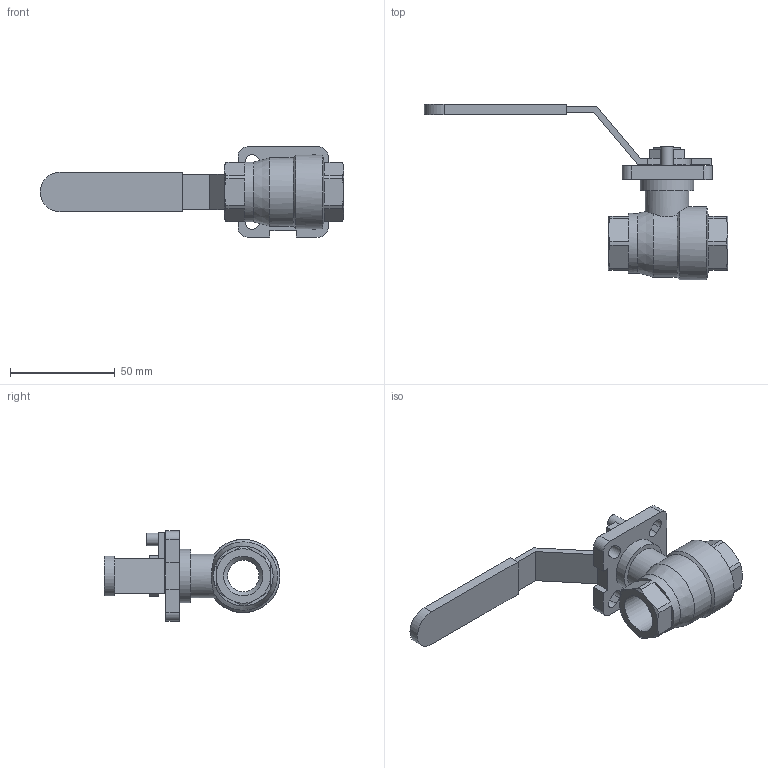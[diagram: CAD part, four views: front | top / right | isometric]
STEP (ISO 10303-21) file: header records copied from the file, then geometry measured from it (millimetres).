
FILE_DESCRIPTION (( 'STEP AP203' ), '1' );
FILE_NAME ('B3.622I015IFVPB0.STEP', '2018-09-27T15:31:05', ( 'dell2' ), ( 'Microsoft' ), 'SwSTEP 2.0', 'SolidWorks 2014', '' );
FILE_SCHEMA (( 'CONFIG_CONTROL_DESIGN' ));
Length unit declared in the file: millimetre
Products named in the file (1): B3.622I015IFVPB0
Bounding box: 145 x 84 x 43 mm (x, y, z)
Volume: 57680.6 mm3; surface area: 21935.6 mm2
Topology: 1 solids, 1 shells, 126 faces, 343 edges, 226 vertices
Faces by surface type: plane 80, cylinder 29, cone 17
Full cylindrical faces by diameter (mm): 6 x1, 15 x1, 18.8 x2, 20.8 x1, 25.5 x1, 28.5 x1, 35 x1
Entity records: 4145 total; most frequent: CARTESIAN_POINT 936, ORIENTED_EDGE 652, DIRECTION 624, EDGE_CURVE 326, VERTEX_POINT 221, LINE 210, VECTOR 210, AXIS2_PLACEMENT_3D 207
